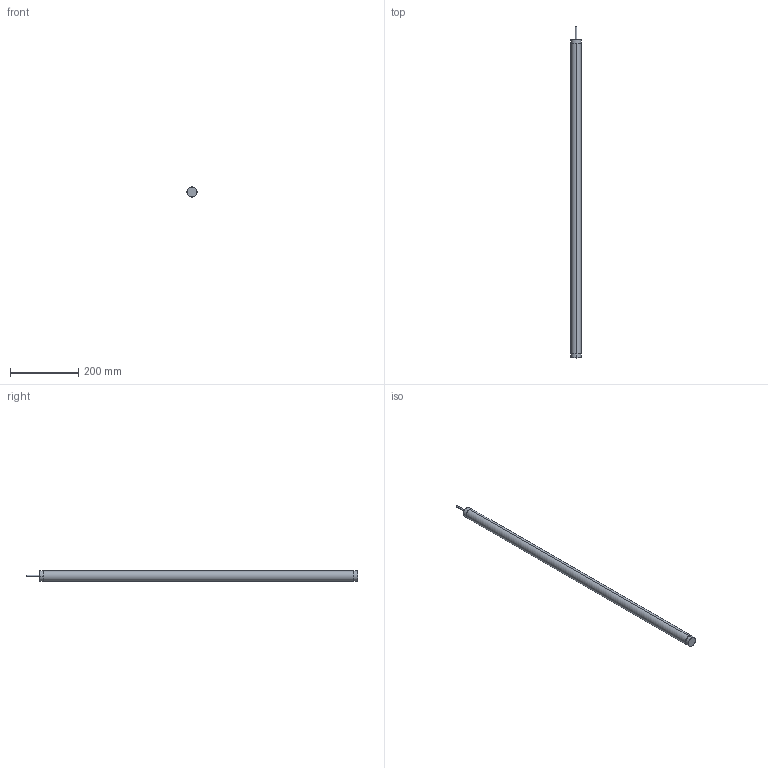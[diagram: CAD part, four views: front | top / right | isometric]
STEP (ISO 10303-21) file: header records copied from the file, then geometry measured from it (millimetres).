
FILE_DESCRIPTION (( 'STEP AP214' ), '1' );
FILE_NAME ('ACTUXXXXEXLAXXX.STEP', '2023-08-28T10:28:00', ( '' ), ( '' ), 'SwSTEP 2.0', 'SolidWorks 2023', '' );
FILE_SCHEMA (( 'AUTOMOTIVE_DESIGN' ));
Length unit declared in the file: millimetre
Products named in the file (5): WSCP2E0049-1400-00; ACTUXXXXEXLAXXX; WSCP2E0012-1400-01; UL20242-P222; WSVBPAR0912X5XX-00
Assembly tree (4 placements, depth 2):
  ACTUXXXXEXLAXXX
    WSVBPAR0912X5XX-00
    WSCP2E0012-1400-01
    WSCP2E0049-1400-00
    UL20242-P222
Bounding box: 30 x 976 x 30 mm (x, y, z)
Volume: 234927.2 mm3; surface area: 167127.4 mm2
Topology: 8 solids, 8 shells, 1389 faces, 3217 edges, 1759 vertices
Faces by surface type: cylinder 549, torus 374, sphere 169, plane 153, bspline 140, cone 4
Entity records: 55831 total; most frequent: CARTESIAN_POINT 24884, DIRECTION 7235, ORIENTED_EDGE 6150, AXIS2_PLACEMENT_3D 3168, EDGE_CURVE 3075, CIRCLE 1912, VERTEX_POINT 1705, EDGE_LOOP 1402
